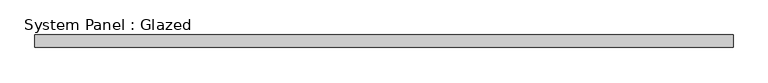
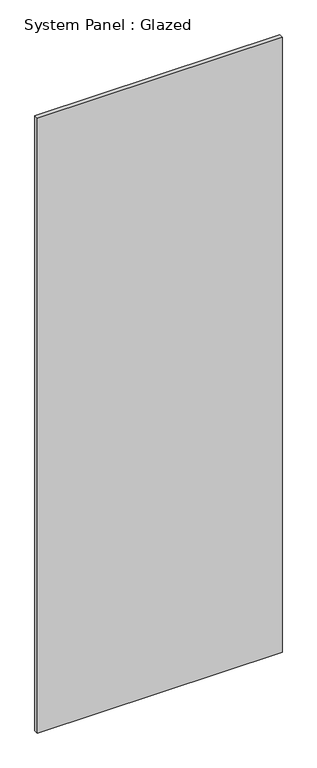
"""IFC4 building model written with IfcOpenShell, lengths in millimetres: plate geometry, System Panel : Glazed."""

from ifc_helpers import new_model, si_unit, origin, origin_with_axes, place, context, project, spatial, polyline, outline, extrude, source, transform, mapped, element, save


def system_panel_glazed_95eec517(model_context):
    return source(origin(), model_context, "Body", "SweptSolid", [
        extrude(outline(polyline([(701.1589132, -49.5), (-701.1589132, -49.5), (-701.1589132, -24.5), (701.1589132, -24.5), (701.1589132, -49.5)])), origin_with_axes(), (0.0, 0.0, 1.0), 3725.0),
    ])


if __name__ == "__main__":
    model = new_model("IFC4")
    model_context = context("Model", 3, world=origin())
    ifc_project = project(units=[si_unit("LENGTHUNIT", "METRE", prefix="MILLI")], contexts=[model_context])
    site = spatial("IfcSite", under=ifc_project)
    building = spatial("IfcBuilding", under=site)
    placement = place(None, origin())
    system_panel_glazed_shape = system_panel_glazed_95eec517(model_context)
    element("IfcPlate", 1, ObjectType="System Panel : Glazed", at=placement, inside=building, context=model_context, shape_type="MappedRepresentation", body=[
        mapped(system_panel_glazed_shape, transform((0.0, 0.0, 0.0), x_axis=(1.0, 0.0, 0.0), y_axis=(0.0, 1.0, 0.0), z_axis=(0.0, 0.0, 1.0))),
    ])
    save(model, "model.ifc")
